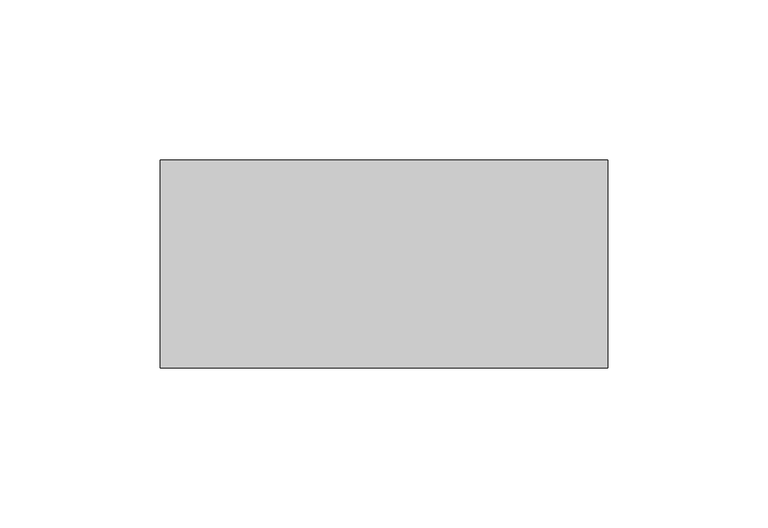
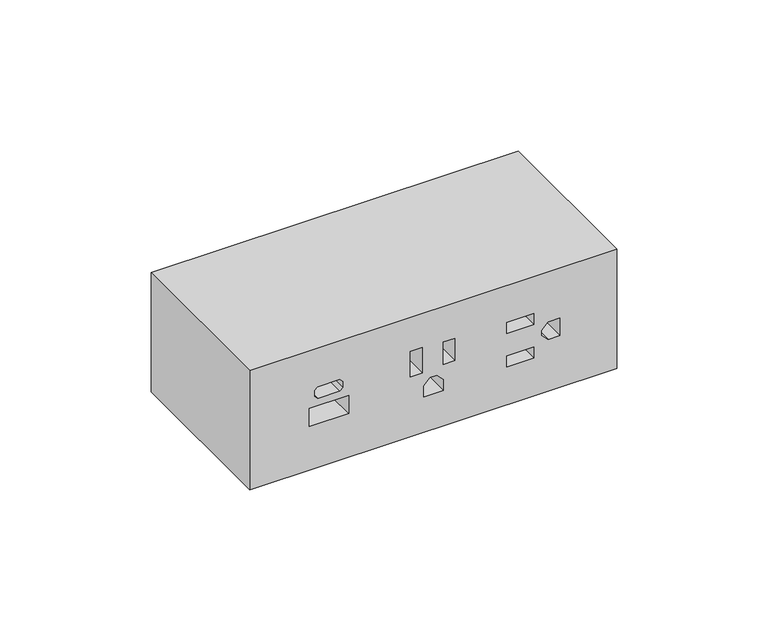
"""IFC4 building model written with IfcOpenShell, lengths in millimetres: furniture geometry, Coalesse_AM_Accessory_Lighting_Ensemble_Power : 2 Power/1 USBA/1 USBC."""

from ifc_helpers import new_model, si_unit, origin, place, context, project, spatial, faceted_brep, source, transform, mapped, element, save


def furniture_03c2da46(model_context):
    return source(origin(), model_context, "Body", "Brep", [
        faceted_brep([(70.4032169, 73.3762106, 125.0513514), (70.4032169, 8.3561072, 125.0513514), (70.4032169, 8.3561222, 76.903073), (70.4032169, 73.3762186, 76.903073), (-69.5519668, 73.3762106, 125.0513514), (-69.5519668, 73.3762186, 76.903073), (-69.5519668, 8.3561222, 76.903073), (-69.5519668, 8.3561072, 125.0513514), (28.5094214, 8.3561161, 96.569587), (38.710829, 8.3561161, 96.569587), (38.710829, 8.3561174, 92.1298689), (28.5094214, 8.3561174, 92.1298689), (41.7871038, 8.3561143, 102.1576452), (44.2748971, 8.3561135, 104.6454385), (48.7752129, 8.3561135, 104.6454385), (48.7752129, 8.3561157, 97.6872513), (44.2748971, 8.3561157, 97.6872513), (41.7871038, 8.3561149, 100.1750446), (28.5094214, 8.3561119, 109.9932407), (38.710829, 8.3561119, 109.9932407), (38.710829, 8.3561132, 105.5535226), (28.5094214, 8.3561132, 105.5535226), (-8.2428792, 8.3561147, 101.0093596), (-8.2428792, 8.3561115, 111.2534291), (-3.7742943, 8.3561115, 111.2534291), (-3.7742943, 8.3561147, 101.0093596), (8.6681088, 8.3561145, 101.5738237), (4.3344651, 8.3561145, 101.5738237), (4.3344651, 8.3561117, 110.5482668), (8.6681088, 8.3561117, 110.5482668), (4.3344651, 8.3561178, 90.9993783), (-3.1446433, 8.3561178, 90.9993783), (-3.1446433, 8.3561164, 95.5423513), (-0.6568503, 8.3561156, 98.0301446), (1.8466714, 8.3561156, 98.0301446), (4.3344651, 8.3561164, 95.5423513), (-31.8581216, 8.3561144, 101.8100011), (-31.8581216, 8.3561167, 94.436396), (-46.9493403, 8.3561167, 94.436396), (-46.9493403, 8.3561144, 101.8100011), (-34.083415, 8.3561132, 105.8089576), (-35.2389654, 8.3561135, 104.653414), (-43.6752214, 8.3561135, 104.653414), (-44.8307695, 8.3561132, 105.8089576), (-44.8307695, 8.3561124, 108.2087566), (-43.6752214, 8.3561121, 109.3643002), (-35.2389654, 8.3561121, 109.3643002), (-34.083415, 8.3561124, 108.2087566), (38.710829, 19.0464558, 96.569587), (28.5094214, 19.0464558, 96.569587), (28.5094214, 19.0464558, 92.1298689), (38.710829, 19.0464558, 92.1298689), (44.2748971, 19.0464558, 104.6454385), (41.7871038, 19.0464558, 102.1576452), (41.7871038, 19.0464558, 100.1750446), (44.2748971, 19.0464558, 97.6872513), (48.7752129, 19.0464558, 97.6872513), (48.7752129, 19.0464558, 104.6454385), (38.710829, 19.0464558, 109.9932407), (28.5094214, 19.0464558, 109.9932407), (28.5094214, 19.0464558, 105.5535226), (38.710829, 19.0464558, 105.5535226), (-8.2428792, 19.0464558, 111.2534291), (-8.2428792, 19.0464558, 101.0093596), (-3.7742943, 19.0464558, 101.0093596), (-3.7742943, 19.0464558, 111.2534291), (4.3344651, 19.0464558, 101.5738237), (8.6681088, 19.0464558, 101.5738237), (8.6681088, 19.0464558, 110.5482668), (4.3344651, 19.0464558, 110.5482668), (-3.1446433, 19.0464558, 90.9993783), (4.3344651, 19.0464558, 90.9993783), (4.3344651, 19.0464558, 95.5423513), (1.8466714, 19.0464558, 98.0301446), (-0.6568503, 19.0464558, 98.0301446), (-3.1446433, 19.0464558, 95.5423513), (-31.8581216, 19.0464558, 94.436396), (-31.8581216, 19.0464558, 101.8100011), (-46.9493403, 19.0464558, 101.8100011), (-46.9493403, 19.0464558, 94.436396), (-35.2389654, 19.0464558, 104.653414), (-34.083415, 19.0464558, 105.8089576), (-34.083415, 19.0464558, 108.2087566), (-35.2389654, 19.0464558, 109.3643002), (-43.6752214, 19.0464558, 109.3643002), (-44.8307695, 19.0464558, 108.2087566), (-44.8307695, 19.0464558, 105.8089576), (-43.6752214, 19.0464558, 104.653414)], [[[0, 1, 2, 3]], [[4, 5, 6, 7]], [[1, 0, 4, 7]], [[2, 1, 7, 6], [8, 9, 10, 11], [12, 13, 14, 15, 16, 17], [18, 19, 20, 21], [22, 23, 24, 25], [26, 27, 28, 29], [30, 31, 32, 33, 34, 35], [36, 37, 38, 39], [40, 41, 42, 43, 44, 45, 46, 47]], [[3, 2, 6, 5]], [[0, 3, 5, 4]], [[48, 49, 50, 51]], [[52, 53, 54, 55, 56, 57]], [[58, 59, 60, 61]], [[62, 63, 64, 65]], [[66, 67, 68, 69]], [[70, 71, 72, 73, 74, 75]], [[76, 77, 78, 79]], [[80, 81, 82, 83, 84, 85, 86, 87]], [[49, 48, 9, 8]], [[50, 49, 8, 11]], [[51, 50, 11, 10]], [[48, 51, 10, 9]], [[53, 52, 13, 12]], [[54, 53, 12, 17]], [[55, 54, 17, 16]], [[56, 55, 16, 15]], [[57, 56, 15, 14]], [[52, 57, 14, 13]], [[59, 58, 19, 18]], [[60, 59, 18, 21]], [[61, 60, 21, 20]], [[58, 61, 20, 19]], [[63, 62, 23, 22]], [[64, 63, 22, 25]], [[65, 64, 25, 24]], [[62, 65, 24, 23]], [[67, 66, 27, 26]], [[68, 67, 26, 29]], [[69, 68, 29, 28]], [[66, 69, 28, 27]], [[71, 70, 31, 30]], [[72, 71, 30, 35]], [[73, 72, 35, 34]], [[74, 73, 34, 33]], [[75, 74, 33, 32]], [[70, 75, 32, 31]], [[77, 76, 37, 36]], [[78, 77, 36, 39]], [[79, 78, 39, 38]], [[76, 79, 38, 37]], [[81, 80, 41, 40]], [[82, 81, 40, 47]], [[83, 82, 47, 46]], [[84, 83, 46, 45]], [[85, 84, 45, 44]], [[86, 85, 44, 43]], [[87, 86, 43, 42]], [[80, 87, 42, 41]]]),
    ])


if __name__ == "__main__":
    model = new_model("IFC4")
    model_context = context("Model", 3, world=origin())
    ifc_project = project(units=[si_unit("LENGTHUNIT", "METRE", prefix="MILLI")], contexts=[model_context])
    site = spatial("IfcSite", under=ifc_project)
    building = spatial("IfcBuilding", under=site)
    placement = place(None, origin())
    furniture_shape = furniture_03c2da46(model_context)
    element("IfcFurniture", 1, ObjectType="Coalesse_AM_Accessory_Lighting_Ensemble_Power : 2 Power/1 USBA/1 USBC", at=placement, inside=building, context=model_context, shape_type="MappedRepresentation", body=[
        mapped(furniture_shape, transform((0.0, 0.0, 0.0), x_axis=(1.0, 0.0, 0.0), y_axis=(0.0, 1.0, 0.0), z_axis=(0.0, 0.0, 1.0))),
    ])
    save(model, "model.ifc")
